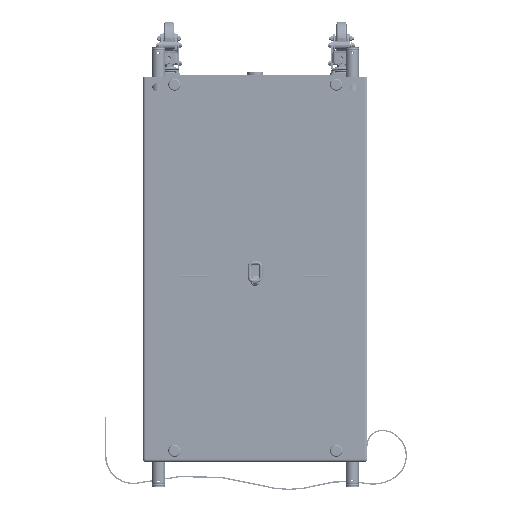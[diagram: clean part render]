
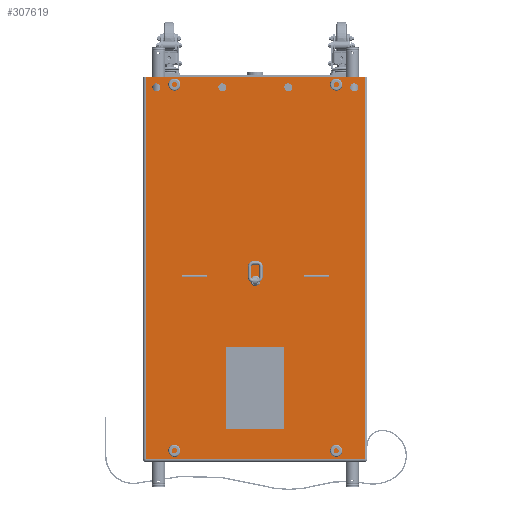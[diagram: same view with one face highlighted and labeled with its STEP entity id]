
A CAD part, left-side view. The second image highlights one B-rep face of the part: STEP entity #307619.
In plain terms, the highlighted planar face has unit normal (-1, 0, 0).
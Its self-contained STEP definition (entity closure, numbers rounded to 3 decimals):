
#297765=DIRECTION('',(0.,-1.,0.));
#297766=VECTOR('',#297765,830.);
#297767=CARTESIAN_POINT('',(-560.,415.,60.));
#297768=LINE('',#297767,#297766);
#298651=DIRECTION('',(0.,0.,-1.));
#298652=VECTOR('',#298651,1450.);
#298653=CARTESIAN_POINT('',(-560.,415.,60.));
#298654=LINE('',#298653,#298652);
#298658=DIRECTION('',(0.,0.,-1.));
#298659=VECTOR('',#298658,1450.);
#298660=CARTESIAN_POINT('',(-560.,-415.,60.));
#298661=LINE('',#298660,#298659);
#298665=DIRECTION('',(0.,1.,0.));
#298666=VECTOR('',#298665,830.);
#298667=CARTESIAN_POINT('',(-560.,-415.,-1390.));
#298668=LINE('',#298667,#298666);
#298672=DIRECTION('',(0.,1.,0.));
#298673=VECTOR('',#298672,220.);
#298674=CARTESIAN_POINT('',(-560.,-110.,-965.));
#298675=LINE('',#298674,#298673);
#298679=DIRECTION('',(0.,0.,-1.));
#298680=VECTOR('',#298679,310.);
#298681=CARTESIAN_POINT('',(-560.,110.,-965.));
#298682=LINE('',#298681,#298680);
#298686=DIRECTION('',(0.,-1.,0.));
#298687=VECTOR('',#298686,220.);
#298688=CARTESIAN_POINT('',(-560.,110.,-1275.));
#298689=LINE('',#298688,#298687);
#298693=DIRECTION('',(0.,0.,1.));
#298694=VECTOR('',#298693,310.);
#298695=CARTESIAN_POINT('',(-560.,-110.,-1275.));
#298696=LINE('',#298695,#298694);
#300135=CARTESIAN_POINT('',(-560.,-375.,20.));
#300136=DIRECTION('',(-1.,0.,0.));
#300137=DIRECTION('',(0.,1.,0.));
#300138=AXIS2_PLACEMENT_3D('',#300135,#300136,#300137);
#300143=CARTESIAN_POINT('',(-560.,-375.,20.));
#300144=DIRECTION('',(-1.,0.,0.));
#300145=DIRECTION('',(0.,-1.,0.));
#300146=AXIS2_PLACEMENT_3D('',#300143,#300144,#300145);
#300151=CARTESIAN_POINT('',(-560.,375.,20.));
#300152=DIRECTION('',(-1.,0.,0.));
#300153=DIRECTION('',(0.,1.,0.));
#300154=AXIS2_PLACEMENT_3D('',#300151,#300152,#300153);
#300159=CARTESIAN_POINT('',(-560.,375.,20.));
#300160=DIRECTION('',(-1.,0.,0.));
#300161=DIRECTION('',(0.,-1.,0.));
#300162=AXIS2_PLACEMENT_3D('',#300159,#300160,#300161);
#300167=CARTESIAN_POINT('',(-560.,-125.,20.));
#300168=DIRECTION('',(-1.,0.,0.));
#300169=DIRECTION('',(0.,1.,0.));
#300170=AXIS2_PLACEMENT_3D('',#300167,#300168,#300169);
#300175=CARTESIAN_POINT('',(-560.,-125.,20.));
#300176=DIRECTION('',(-1.,0.,0.));
#300177=DIRECTION('',(0.,-1.,0.));
#300178=AXIS2_PLACEMENT_3D('',#300175,#300176,#300177);
#300183=CARTESIAN_POINT('',(-560.,125.,20.));
#300184=DIRECTION('',(-1.,0.,0.));
#300185=DIRECTION('',(0.,1.,0.));
#300186=AXIS2_PLACEMENT_3D('',#300183,#300184,#300185);
#300191=CARTESIAN_POINT('',(-560.,125.,20.));
#300192=DIRECTION('',(-1.,0.,0.));
#300193=DIRECTION('',(0.,-1.,0.));
#300194=AXIS2_PLACEMENT_3D('',#300191,#300192,#300193);
#305073=CARTESIAN_POINT('',(-560.,415.,60.));
#305075=VERTEX_POINT('',#305073);
#305076=CARTESIAN_POINT('',(-560.,415.,-1390.));
#305077=VERTEX_POINT('',#305076);
#305084=CARTESIAN_POINT('',(-560.,-415.,-1390.));
#305085=VERTEX_POINT('',#305084);
#305100=CARTESIAN_POINT('',(-560.,-415.,60.));
#305102=VERTEX_POINT('',#305100);
#305988=CARTESIAN_POINT('',(-560.,-110.,-965.));
#305989=CARTESIAN_POINT('',(-560.,110.,-965.));
#305990=VERTEX_POINT('',#305988);
#305991=VERTEX_POINT('',#305989);
#305992=CARTESIAN_POINT('',(-560.,110.,-1275.));
#305993=VERTEX_POINT('',#305992);
#305994=CARTESIAN_POINT('',(-560.,-110.,-1275.));
#305995=VERTEX_POINT('',#305994);
#306406=CARTESIAN_POINT('',(-560.,-360.,20.));
#306407=CARTESIAN_POINT('',(-560.,-390.,20.));
#306408=VERTEX_POINT('',#306406);
#306409=VERTEX_POINT('',#306407);
#306410=CARTESIAN_POINT('',(-560.,390.,20.));
#306411=CARTESIAN_POINT('',(-560.,360.,20.));
#306412=VERTEX_POINT('',#306410);
#306413=VERTEX_POINT('',#306411);
#306414=CARTESIAN_POINT('',(-560.,-110.,20.));
#306415=CARTESIAN_POINT('',(-560.,-140.,20.));
#306416=VERTEX_POINT('',#306414);
#306417=VERTEX_POINT('',#306415);
#306418=CARTESIAN_POINT('',(-560.,140.,20.));
#306419=CARTESIAN_POINT('',(-560.,110.,20.));
#306420=VERTEX_POINT('',#306418);
#306421=VERTEX_POINT('',#306419);
#307574=CARTESIAN_POINT('',(-560.,425.,60.));
#307575=DIRECTION('',(-1.,0.,0.));
#307576=DIRECTION('',(0.,-1.,0.));
#307577=AXIS2_PLACEMENT_3D('',#307574,#307575,#307576);
#307578=PLANE('',#307577);
#307579=ORIENTED_EDGE('',*,*,#306864,.F.);
#307580=ORIENTED_EDGE('',*,*,#306902,.T.);
#307582=ORIENTED_EDGE('',*,*,#307581,.T.);
#307583=ORIENTED_EDGE('',*,*,#306566,.T.);
#307584=EDGE_LOOP('',(#307579,#307580,#307582,#307583));
#307585=FACE_OUTER_BOUND('',#307584,.F.);
#307587=ORIENTED_EDGE('',*,*,#307586,.T.);
#307589=ORIENTED_EDGE('',*,*,#307588,.T.);
#307591=ORIENTED_EDGE('',*,*,#307590,.T.);
#307593=ORIENTED_EDGE('',*,*,#307592,.T.);
#307594=EDGE_LOOP('',(#307587,#307589,#307591,#307593));
#307595=FACE_BOUND('',#307594,.F.);
#307596=ORIENTED_EDGE('',*,*,#307549,.T.);
#307598=ORIENTED_EDGE('',*,*,#307597,.T.);
#307599=EDGE_LOOP('',(#307596,#307598));
#307600=FACE_BOUND('',#307599,.F.);
#307602=ORIENTED_EDGE('',*,*,#307601,.T.);
#307604=ORIENTED_EDGE('',*,*,#307603,.T.);
#307605=EDGE_LOOP('',(#307602,#307604));
#307606=FACE_BOUND('',#307605,.F.);
#307608=ORIENTED_EDGE('',*,*,#307607,.T.);
#307610=ORIENTED_EDGE('',*,*,#307609,.T.);
#307611=EDGE_LOOP('',(#307608,#307610));
#307612=FACE_BOUND('',#307611,.F.);
#307614=ORIENTED_EDGE('',*,*,#307613,.T.);
#307616=ORIENTED_EDGE('',*,*,#307615,.T.);
#307617=EDGE_LOOP('',(#307614,#307616));
#307618=FACE_BOUND('',#307617,.F.);
#300139=CIRCLE('',#300138,15.);
#300147=CIRCLE('',#300146,15.);
#300155=CIRCLE('',#300154,15.);
#300163=CIRCLE('',#300162,15.);
#300171=CIRCLE('',#300170,15.);
#300179=CIRCLE('',#300178,15.);
#300187=CIRCLE('',#300186,15.);
#300195=CIRCLE('',#300194,15.);
#306566=EDGE_CURVE('',#305085,#305077,#298668,.T.);
#306864=EDGE_CURVE('',#305075,#305077,#298654,.T.);
#306902=EDGE_CURVE('',#305075,#305102,#297768,.T.);
#307549=EDGE_CURVE('',#306408,#306409,#300139,.T.);
#307581=EDGE_CURVE('',#305102,#305085,#298661,.T.);
#307586=EDGE_CURVE('',#305990,#305991,#298675,.T.);
#307588=EDGE_CURVE('',#305991,#305993,#298682,.T.);
#307590=EDGE_CURVE('',#305993,#305995,#298689,.T.);
#307592=EDGE_CURVE('',#305995,#305990,#298696,.T.);
#307597=EDGE_CURVE('',#306409,#306408,#300147,.T.);
#307601=EDGE_CURVE('',#306412,#306413,#300155,.T.);
#307603=EDGE_CURVE('',#306413,#306412,#300163,.T.);
#307607=EDGE_CURVE('',#306416,#306417,#300171,.T.);
#307609=EDGE_CURVE('',#306417,#306416,#300179,.T.);
#307613=EDGE_CURVE('',#306420,#306421,#300187,.T.);
#307615=EDGE_CURVE('',#306421,#306420,#300195,.T.);
#307619=ADVANCED_FACE('',(#307585,#307595,#307600,#307606,#307612,#307618),
#307578,.T.);
